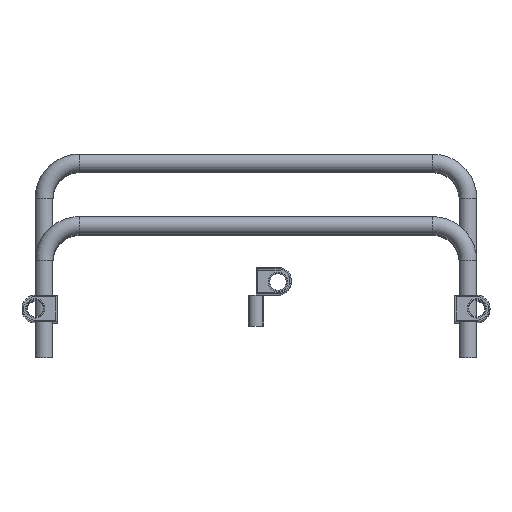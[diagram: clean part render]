
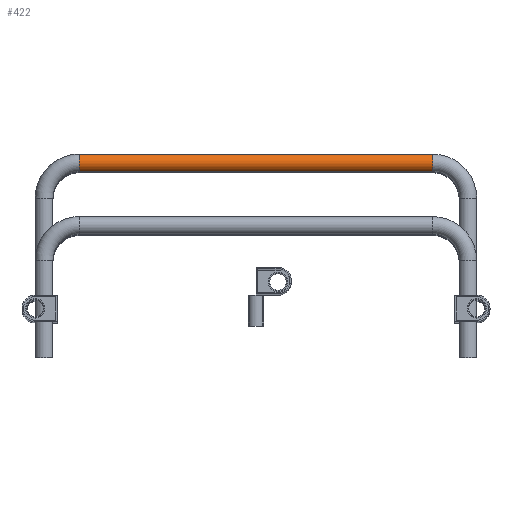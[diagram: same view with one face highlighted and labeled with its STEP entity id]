
A CAD part, top view. The second image highlights one B-rep face of the part: STEP entity #422.
In plain terms, the highlighted cylindrical face has radius 10 mm (diameter 20 mm), a full revolution.
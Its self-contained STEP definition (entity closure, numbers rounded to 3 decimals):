
#422 = ADVANCED_FACE( '', ( #561, #562 ), #563, .T. );
#561 = FACE_OUTER_BOUND( '', #662, .T. );
#562 = FACE_OUTER_BOUND( '', #663, .T. );
#563 = CYLINDRICAL_SURFACE( '', #664, 10. );
#662 = EDGE_LOOP( '', ( #855 ) );
#663 = EDGE_LOOP( '', ( #856 ) );
#664 = AXIS2_PLACEMENT_3D( '', #857, #858, #859 );
#855 = ORIENTED_EDGE( '', *, *, #977, .T. );
#856 = ORIENTED_EDGE( '', *, *, #975, .F. );
#857 = CARTESIAN_POINT( '', ( -200., 79., 0. ) );
#858 = DIRECTION( '', ( -1., 0., 0. ) );
#859 = DIRECTION( '', ( 0., 1., 0. ) );
#975 = EDGE_CURVE( '', #1073, #1073, #1074, .F. );
#977 = EDGE_CURVE( '', #1077, #1077, #1078, .F. );
#1073 = VERTEX_POINT( '', #1165 );
#1074 = CIRCLE( '', #1166, 10. );
#1077 = VERTEX_POINT( '', #1169 );
#1078 = CIRCLE( '', #1170, 10. );
#1165 = CARTESIAN_POINT( '', ( -200., 69., 0. ) );
#1166 = AXIS2_PLACEMENT_3D( '', #1237, #1238, #1239 );
#1169 = CARTESIAN_POINT( '', ( 200., 69., 0. ) );
#1170 = AXIS2_PLACEMENT_3D( '', #1243, #1244, #1245 );
#1237 = CARTESIAN_POINT( '', ( -200., 79., 0. ) );
#1238 = DIRECTION( '', ( 1., 0., 0. ) );
#1239 = DIRECTION( '', ( 0., -1., 0. ) );
#1243 = CARTESIAN_POINT( '', ( 200., 79., 0. ) );
#1244 = DIRECTION( '', ( 1., 0., 0. ) );
#1245 = DIRECTION( '', ( 0., -1., 0. ) );
